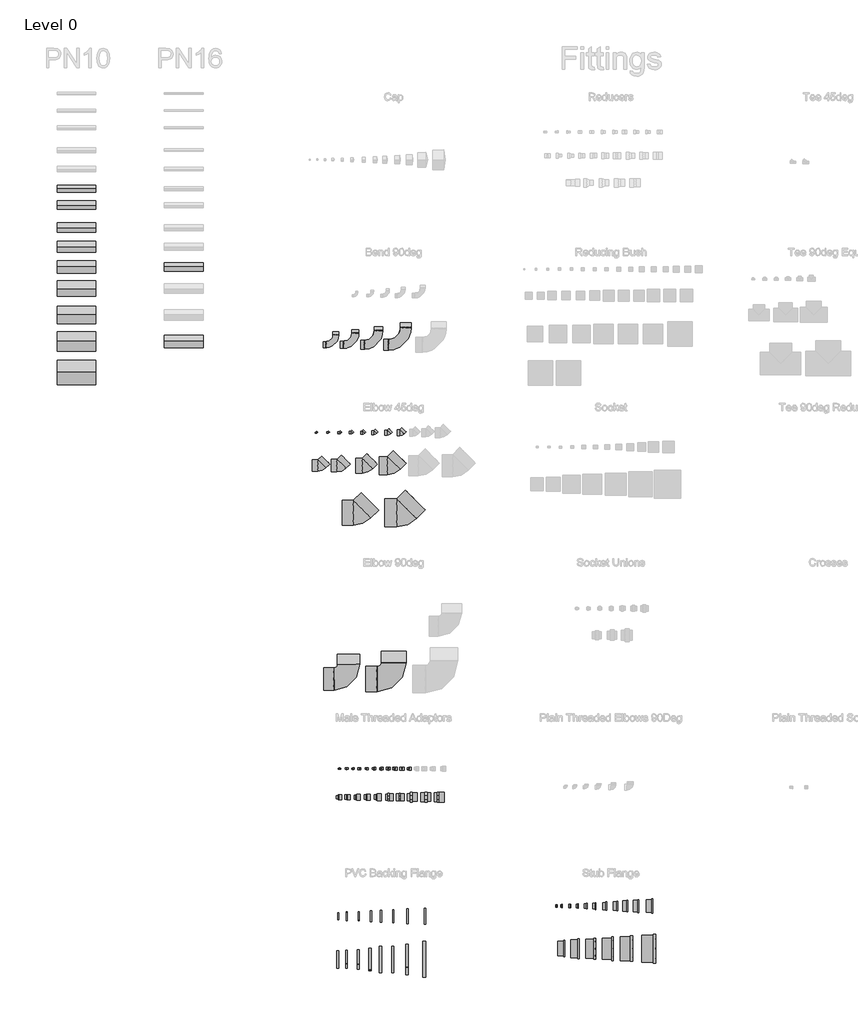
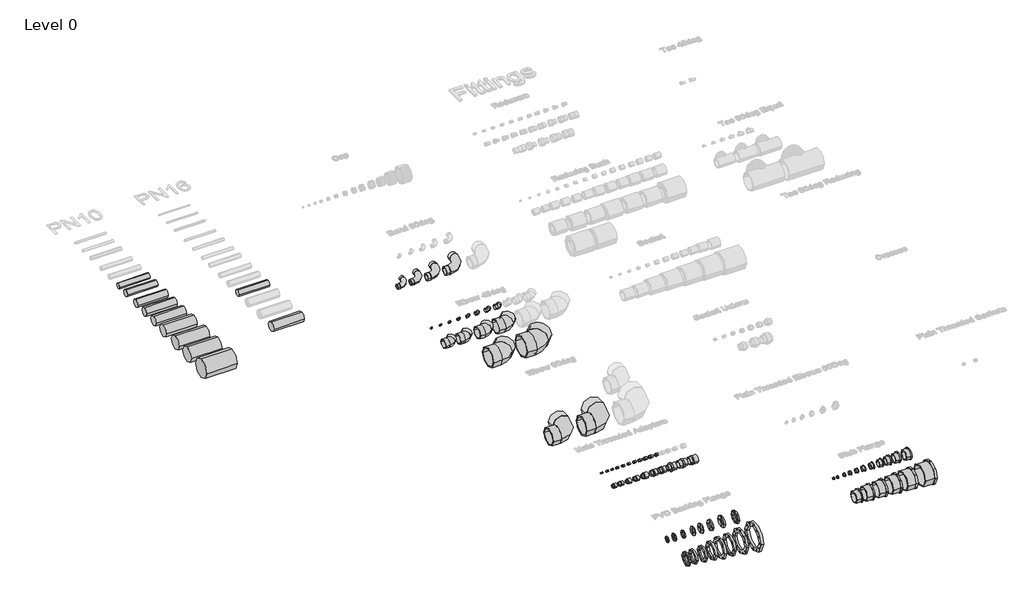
# One storey, part 1 of 12: 86 pipe fittings.
"""IFC4 building model written with IfcOpenShell, lengths in millimetres."""

from ifc_helpers import new_model, si_unit, point, frame, frame_2d, origin, place, context, project, spatial, circle_curve, trimmed, segment, composite_curve, outline, extrude, transform, mapped, element, save
from components import pipe_fitting_f9a5b86b, pipe_fitting_59a394b3, pipe_fitting_66b5aaa3, pipe_fitting_63f056da, pipe_fitting_60de37bf, pipe_fitting_c904c121, pipe_fitting_867ca9e1, pipe_fitting_e3af6aa8, pipe_fitting_306f539a, pipe_fitting_6127370f, pipe_fitting_e8316734, pipe_fitting_deb0e6cc, pipe_fitting_0a72955d, pipe_fitting_9d1be2bb, pipe_fitting_c08f262e, pipe_fitting_9718ebb0, pipe_fitting_60481200, pipe_fitting_eaadc510, pipe_fitting_d07ed563, pipe_fitting_6e557de6, pipe_fitting_5c9d9577, pipe_fitting_110mm_35456027, pipe_fitting_110mm_e28571aa, pipe_fitting_125mm_e40749f2, pipe_fitting_125mm_99c0a4ed, pipe_fitting_140mm_c804a835, pipe_fitting_140mm_497a3cd5, pipe_fitting_160mm_4be33bc1, pipe_fitting_160mm_4a2299de, pipe_fitting_200mm_c7647781, pipe_fitting_200mm_46101ffc, pipe_fitting_20mm_3369a606, pipe_fitting_225mm_686b6c55, pipe_fitting_225mm_01b42598, pipe_fitting_250mm_ace15a35, pipe_fitting_250mm_2ba4ded5, pipe_fitting_25mm_d84730b9, pipe_fitting_25mm_a70d380e, pipe_fitting_280mm_290d82b5, pipe_fitting_290mm_5db712d4, pipe_fitting_315mm_d6d34c67, pipe_fitting_315mm_f2f851d3, pipe_fitting_32mm_25229a6d, pipe_fitting_32mm_910a39b7, pipe_fitting_40mm_260ce3ac, pipe_fitting_40mm_33106ba2, pipe_fitting_50mm_88c0afe9, pipe_fitting_50mm_277fe24f, pipe_fitting_63mm_dcb5f1be, pipe_fitting_63mm_d86aa782, pipe_fitting_75mm_7d04418f, pipe_fitting_75mm_f55d075b, pipe_fitting_90mm_0bc7f5ea, pipe_fitting_90mm_9a9f9040, standard_a8a5e359, standard_6b6b4002, standard_bcc041ec, standard_313282be, standard_bbab947c, standard_3af9f29b, standard_f4dc8211, standard_2860c506, standard_eebcdaaf, standard_ba260039, standard_29ab3000, standard_3abe5477, standard_8de06d08, standard_411a4655, standard_528f4212, standard_2a486069, standard_0e005561, standard_c7f499f5, standard_87301c97, standard_bef04e3c

model = new_model("IFC4")

# Units and contexts
model_context = context("Model", 3, world=origin())
ifc_project = project(units=[si_unit("LENGTHUNIT", "METRE", prefix="MILLI")], contexts=[model_context])

# Site, building, storey
site = spatial("IfcSite", under=ifc_project)
building = spatial("IfcBuilding", under=site)
storey = spatial("IfcBuildingStorey", under=building, Name="Level 0", Elevation=0.0)

# Pipe fittings
placement = place(None, origin())
pipe_fitting_shape = pipe_fitting_f9a5b86b(model_context)
element("IfcPipeFitting", 1, ObjectType="Durapipe_PipeFitting_PVC_MaleThreadedAdaptors : 16 x 12 x G3⁄8", at=placement, inside=storey, context=model_context, shape_type="MappedRepresentation", body=[
    mapped(pipe_fitting_shape, transform((-16929.3391871, 336.5620017, 0.0), x_axis=(1.0, 0.0, 0.0), y_axis=(0.0, 1.0, 0.0), z_axis=(0.0, 0.0, 1.0))),
])
pipe_fitting_2_shape = pipe_fitting_59a394b3(model_context)
element("IfcPipeFitting", 2, ObjectType="Durapipe_PipeFitting_PVC_MaleThreadedAdaptors : 20 x 16 x G3⁄8", at=placement, inside=storey, context=model_context, shape_type="MappedRepresentation", body=[
    mapped(pipe_fitting_2_shape, transform((-16759.3951337, 336.5620017, 0.0), x_axis=(1.0, 0.0, 0.0), y_axis=(0.0, 1.0, 0.0), z_axis=(0.0, 0.0, 1.0))),
])
pipe_fitting_3_shape = pipe_fitting_66b5aaa3(model_context)
element("IfcPipeFitting", 3, ObjectType="Durapipe_PipeFitting_PVC_MaleThreadedAdaptors : 20 x 16 x 1⁄2", at=placement, inside=storey, context=model_context, shape_type="MappedRepresentation", body=[
    mapped(pipe_fitting_3_shape, transform((-16840.281416, 336.5620017, 0.0), x_axis=(1.0, 0.0, 0.0), y_axis=(0.0, 1.0, 0.0), z_axis=(0.0, 0.0, 1.0))),
])
pipe_fitting_4_shape = pipe_fitting_63f056da(model_context)
element("IfcPipeFitting", 4, ObjectType="Durapipe_PipeFitting_PVC_MaleThreadedAdaptors : 25 x 20 x G1⁄2", at=placement, inside=storey, context=model_context, shape_type="MappedRepresentation", body=[
    mapped(pipe_fitting_4_shape, transform((-16581.2968977, 336.5620017, 0.0), x_axis=(1.0, 0.0, 0.0), y_axis=(0.0, 1.0, 0.0), z_axis=(0.0, 0.0, 1.0))),
])
pipe_fitting_5_shape = pipe_fitting_60de37bf(model_context)
element("IfcPipeFitting", 5, ObjectType="Durapipe_PipeFitting_PVC_MaleThreadedAdaptors : 25 x 20 x 3⁄4", at=placement, inside=storey, context=model_context, shape_type="MappedRepresentation", body=[
    mapped(pipe_fitting_5_shape, transform((-16676.2826236, 336.5620017, 0.0), x_axis=(1.0, 0.0, 0.0), y_axis=(0.0, 1.0, 0.0), z_axis=(0.0, 0.0, 1.0))),
])
pipe_fitting_6_shape = pipe_fitting_c904c121(model_context)
element("IfcPipeFitting", 6, ObjectType="Durapipe_PipeFitting_PVC_MaleThreadedAdaptors : 32 x 25 x 1⁄2", at=placement, inside=storey, context=model_context, shape_type="MappedRepresentation", body=[
    mapped(pipe_fitting_6_shape, transform((-16487.7953237, 336.5620017, 0.0), x_axis=(1.0, 0.0, 0.0), y_axis=(0.0, 1.0, 0.0), z_axis=(0.0, 0.0, 1.0))),
])
pipe_fitting_7_shape = pipe_fitting_867ca9e1(model_context)
element("IfcPipeFitting", 7, ObjectType="Durapipe_PipeFitting_PVC_MaleThreadedAdaptors : 32 x 25 x 3⁄4", at=placement, inside=storey, context=model_context, shape_type="MappedRepresentation", body=[
    mapped(pipe_fitting_7_shape, transform((-16392.0675218, 336.5620017, 0.0), x_axis=(1.0, 0.0, 0.0), y_axis=(0.0, 1.0, 0.0), z_axis=(0.0, 0.0, 1.0))),
])
pipe_fitting_8_shape = pipe_fitting_e3af6aa8(model_context)
element("IfcPipeFitting", 8, ObjectType="Durapipe_PipeFitting_PVC_MaleThreadedAdaptors : 32 x 25 x G1", at=placement, inside=storey, context=model_context, shape_type="MappedRepresentation", body=[
    mapped(pipe_fitting_8_shape, transform((-16302.0335623, 336.5620017, 0.0), x_axis=(1.0, 0.0, 0.0), y_axis=(0.0, 1.0, 0.0), z_axis=(0.0, 0.0, 1.0))),
])
pipe_fitting_9_shape = pipe_fitting_306f539a(model_context)
element("IfcPipeFitting", 9, ObjectType="Durapipe_PipeFitting_PVC_MaleThreadedAdaptors : 40 x 32 x G3⁄4", at=placement, inside=storey, context=model_context, shape_type="MappedRepresentation", body=[
    mapped(pipe_fitting_9_shape, transform((-16036.0400377, 336.5620017, 0.0), x_axis=(1.0, 0.0, 0.0), y_axis=(0.0, 1.0, 0.0), z_axis=(0.0, 0.0, 1.0))),
])
pipe_fitting_10_shape = pipe_fitting_6127370f(model_context)
element("IfcPipeFitting", 10, ObjectType="Durapipe_PipeFitting_PVC_MaleThreadedAdaptors : 40 x 32 x G1", at=placement, inside=storey, context=model_context, shape_type="MappedRepresentation", body=[
    mapped(pipe_fitting_10_shape, transform((-16218.6649373, 336.5620017, 0.0), x_axis=(1.0, 0.0, 0.0), y_axis=(0.0, 1.0, 0.0), z_axis=(0.0, 0.0, 1.0))),
])
pipe_fitting_11_shape = pipe_fitting_e8316734(model_context)
element("IfcPipeFitting", 11, ObjectType="Durapipe_PipeFitting_PVC_MaleThreadedAdaptors : 40 x 32 x G1-1⁄4", at=placement, inside=storey, context=model_context, shape_type="MappedRepresentation", body=[
    mapped(pipe_fitting_11_shape, transform((-16123.0855506, 336.5620017, 0.0), x_axis=(1.0, 0.0, 0.0), y_axis=(0.0, 1.0, 0.0), z_axis=(0.0, 0.0, 1.0))),
])
pipe_fitting_12_shape = pipe_fitting_deb0e6cc(model_context)
element("IfcPipeFitting", 12, ObjectType="Durapipe_PipeFitting_PVC_MaleThreadedAdaptors : 63 x 50 x G1-1⁄4", at=placement, inside=storey, context=model_context, shape_type="MappedRepresentation", body=[
    mapped(pipe_fitting_12_shape, transform((-16944.3391871, -30.5816939, 0.0), x_axis=(1.0, 0.0, 0.0), y_axis=(0.0, 1.0, 0.0), z_axis=(0.0, 0.0, 1.0))),
])
pipe_fitting_13_shape = pipe_fitting_0a72955d(model_context)
element("IfcPipeFitting", 13, ObjectType="Durapipe_PipeFitting_PVC_MaleThreadedAdaptors : 63 x 50 x G2", at=placement, inside=storey, context=model_context, shape_type="MappedRepresentation", body=[
    mapped(pipe_fitting_13_shape, transform((-16833.3212501, -30.5816939, 0.0), x_axis=(1.0, 0.0, 0.0), y_axis=(0.0, 1.0, 0.0), z_axis=(0.0, 0.0, 1.0))),
])
pipe_fitting_14_shape = pipe_fitting_9d1be2bb(model_context)
element("IfcPipeFitting", 14, ObjectType="Durapipe_PipeFitting_PVC_MaleThreadedAdaptors : 75 x 63 x G1-1⁄2", at=placement, inside=storey, context=model_context, shape_type="MappedRepresentation", body=[
    mapped(pipe_fitting_14_shape, transform((-16713.1685711, -30.5816939, 0.0), x_axis=(1.0, 0.0, 0.0), y_axis=(0.0, 1.0, 0.0), z_axis=(0.0, 0.0, 1.0))),
])
pipe_fitting_15_shape = pipe_fitting_c08f262e(model_context)
element("IfcPipeFitting", 15, ObjectType="Durapipe_PipeFitting_PVC_MaleThreadedAdaptors : 75 x 63 x G2", at=placement, inside=storey, context=model_context, shape_type="MappedRepresentation", body=[
    mapped(pipe_fitting_15_shape, transform((-16582.7170911, -30.5816939, 0.0), x_axis=(1.0, 0.0, 0.0), y_axis=(0.0, 1.0, 0.0), z_axis=(0.0, 0.0, 1.0))),
])
pipe_fitting_16_shape = pipe_fitting_9718ebb0(model_context)
element("IfcPipeFitting", 16, ObjectType="Durapipe_PipeFitting_PVC_MaleThreadedAdaptors : 90 x 75 x G2", at=placement, inside=storey, context=model_context, shape_type="MappedRepresentation", body=[
    mapped(pipe_fitting_16_shape, transform((-16445.3997436, -30.5816939, 0.0), x_axis=(1.0, 0.0, 0.0), y_axis=(0.0, 1.0, 0.0), z_axis=(0.0, 0.0, 1.0))),
])
pipe_fitting_17_shape = pipe_fitting_60481200(model_context)
element("IfcPipeFitting", 17, ObjectType="Durapipe_PipeFitting_PVC_MaleThreadedAdaptors : 90 x 75 x G2-1⁄2", at=placement, inside=storey, context=model_context, shape_type="MappedRepresentation", body=[
    mapped(pipe_fitting_17_shape, transform((-16293.7530594, -30.5816939, 0.0), x_axis=(1.0, 0.0, 0.0), y_axis=(0.0, 1.0, 0.0), z_axis=(0.0, 0.0, 1.0))),
])
pipe_fitting_18_shape = pipe_fitting_eaadc510(model_context)
element("IfcPipeFitting", 18, ObjectType="Durapipe_PipeFitting_PVC_MaleThreadedAdaptors : 90 x 75 x G3", at=placement, inside=storey, context=model_context, shape_type="MappedRepresentation", body=[
    mapped(pipe_fitting_18_shape, transform((-16151.1649373, -30.5816939, 0.0), x_axis=(1.0, 0.0, 0.0), y_axis=(0.0, 1.0, 0.0), z_axis=(0.0, 0.0, 1.0))),
])
pipe_fitting_19_shape = pipe_fitting_d07ed563(model_context)
element("IfcPipeFitting", 19, ObjectType="Durapipe_PipeFitting_PVC_MaleThreadedAdaptors : 110 x 90 x G3", at=placement, inside=storey, context=model_context, shape_type="MappedRepresentation", body=[
    mapped(pipe_fitting_19_shape, transform((-15994.6396271, -30.5816939, 0.0), x_axis=(1.0, 0.0, 0.0), y_axis=(0.0, 1.0, 0.0), z_axis=(0.0, 0.0, 1.0))),
])
pipe_fitting_20_shape = pipe_fitting_6e557de6(model_context)
element("IfcPipeFitting", 20, ObjectType="Durapipe_PipeFitting_PVC_MaleThreadedAdaptors : 110 x 90 x G4", at=placement, inside=storey, context=model_context, shape_type="MappedRepresentation", body=[
    mapped(pipe_fitting_20_shape, transform((-15806.5278769, -30.5816939, 0.0), x_axis=(1.0, 0.0, 0.0), y_axis=(0.0, 1.0, 0.0), z_axis=(0.0, 0.0, 1.0))),
])
pipe_fitting_21_shape = pipe_fitting_5c9d9577(model_context)
element("IfcPipeFitting", 21, ObjectType="Durapipe_PipeFitting_PVC_MaleThreadedAdaptors : 125 x 110 x G4", at=placement, inside=storey, context=model_context, shape_type="MappedRepresentation", body=[
    mapped(pipe_fitting_21_shape, transform((-15655.0016538, -30.5816939, 0.0), x_axis=(1.0, 0.0, 0.0), y_axis=(0.0, 1.0, 0.0), z_axis=(0.0, 0.0, 1.0))),
])
pipe_fitting_110mm_shape = pipe_fitting_110mm_35456027(model_context)
element("IfcPipeFitting", 22, ObjectType="Durapipe_PipeFitting_PVC_BackingFlange : 110mm", at=placement, inside=storey, context=model_context, shape_type="MappedRepresentation", body=[
    mapped(pipe_fitting_110mm_shape, transform((-15830.1653961, -1564.7548716, 0.0), x_axis=(1.0, 0.0, 0.0), y_axis=(0.0, 1.0, 0.0), z_axis=(0.0, 0.0, 1.0))),
])
pipe_fitting_110mm_2_shape = pipe_fitting_110mm_e28571aa(model_context)
element("IfcPipeFitting", 23, ObjectType="Durapipe_PipeFitting_PVC_StubFlange : 110mm", at=placement, inside=storey, context=model_context, shape_type="MappedRepresentation", body=[
    mapped(pipe_fitting_110mm_2_shape, transform((-13254.3344401, -1433.1373987, 0.0), x_axis=(1.0, 0.0, 0.0), y_axis=(0.0, 1.0, 0.0), z_axis=(0.0, 0.0, 1.0))),
])
pipe_fitting_125mm_shape = pipe_fitting_125mm_e40749f2(model_context)
element("IfcPipeFitting", 24, ObjectType="Durapipe_PipeFitting_PVC_BackingFlange : 125mm", at=placement, inside=storey, context=model_context, shape_type="MappedRepresentation", body=[
    mapped(pipe_fitting_125mm_shape, transform((-16957.197715, -2120.8870265, 0.0), x_axis=(1.0, 0.0, 0.0), y_axis=(0.0, 1.0, 0.0), z_axis=(0.0, 0.0, 1.0))),
])
pipe_fitting_125mm_2_shape = pipe_fitting_125mm_99c0a4ed(model_context)
element("IfcPipeFitting", 25, ObjectType="Durapipe_PipeFitting_PVC_StubFlange : 125mm", at=placement, inside=storey, context=model_context, shape_type="MappedRepresentation", body=[
    mapped(pipe_fitting_125mm_2_shape, transform((-13113.5137483, -1433.1373987, 0.0), x_axis=(1.0, 0.0, 0.0), y_axis=(0.0, 1.0, 0.0), z_axis=(0.0, 0.0, 1.0))),
])
pipe_fitting_140mm_shape = pipe_fitting_140mm_c804a835(model_context)
element("IfcPipeFitting", 26, ObjectType="Durapipe_PipeFitting_PVC_BackingFlange : 140mm", at=placement, inside=storey, context=model_context, shape_type="MappedRepresentation", body=[
    mapped(pipe_fitting_140mm_shape, transform((-16843.2245144, -2120.8870265, 0.0), x_axis=(1.0, 0.0, 0.0), y_axis=(0.0, 1.0, 0.0), z_axis=(0.0, 0.0, 1.0))),
])
pipe_fitting_140mm_2_shape = pipe_fitting_140mm_497a3cd5(model_context)
element("IfcPipeFitting", 27, ObjectType="Durapipe_PipeFitting_PVC_StubFlange : 140mm", at=placement, inside=storey, context=model_context, shape_type="MappedRepresentation", body=[
    mapped(pipe_fitting_140mm_2_shape, transform((-12939.87417, -1433.1373987, 0.0), x_axis=(1.0, 0.0, 0.0), y_axis=(0.0, 1.0, 0.0), z_axis=(0.0, 0.0, 1.0))),
])
pipe_fitting_160mm_shape = pipe_fitting_160mm_4be33bc1(model_context)
element("IfcPipeFitting", 28, ObjectType="Durapipe_PipeFitting_PVC_BackingFlange : 160mm", at=placement, inside=storey, context=model_context, shape_type="MappedRepresentation", body=[
    mapped(pipe_fitting_160mm_shape, transform((-16693.3972649, -2120.8870265, 0.0), x_axis=(1.0, 0.0, 0.0), y_axis=(0.0, 1.0, 0.0), z_axis=(0.0, 0.0, 1.0))),
])
pipe_fitting_160mm_2_shape = pipe_fitting_160mm_4a2299de(model_context)
element("IfcPipeFitting", 29, ObjectType="Durapipe_PipeFitting_PVC_StubFlange : 160mm", at=placement, inside=storey, context=model_context, shape_type="MappedRepresentation", body=[
    mapped(pipe_fitting_160mm_2_shape, transform((-14075.3237368, -1982.3720137, 0.0), x_axis=(1.0, 0.0, 0.0), y_axis=(0.0, 1.0, 0.0), z_axis=(0.0, 0.0, 1.0))),
])
pipe_fitting_200mm_shape = pipe_fitting_200mm_c7647781(model_context)
element("IfcPipeFitting", 30, ObjectType="Durapipe_PipeFitting_PVC_BackingFlange : 200mm", at=placement, inside=storey, context=model_context, shape_type="MappedRepresentation", body=[
    mapped(pipe_fitting_200mm_shape, transform((-16542.5858814, -2120.8870265, 0.0), x_axis=(1.0, 0.0, 0.0), y_axis=(0.0, 1.0, 0.0), z_axis=(0.0, 0.0, 1.0))),
])
pipe_fitting_200mm_2_shape = pipe_fitting_200mm_46101ffc(model_context)
element("IfcPipeFitting", 31, ObjectType="Durapipe_PipeFitting_PVC_StubFlange : 200mm", at=placement, inside=storey, context=model_context, shape_type="MappedRepresentation", body=[
    mapped(pipe_fitting_200mm_2_shape, transform((-13901.0030847, -1982.3720137, 0.0), x_axis=(1.0, 0.0, 0.0), y_axis=(0.0, 1.0, 0.0), z_axis=(0.0, 0.0, 1.0))),
])
pipe_fitting_20mm_shape = pipe_fitting_20mm_3369a606(model_context)
element("IfcPipeFitting", 32, ObjectType="Durapipe_PipeFitting_PVC_StubFlange : 20mm", at=placement, inside=storey, context=model_context, shape_type="MappedRepresentation", body=[
    mapped(pipe_fitting_20mm_shape, transform((-14140.3237368, -1433.1373987, 0.0), x_axis=(1.0, 0.0, 0.0), y_axis=(0.0, 1.0, 0.0), z_axis=(0.0, 0.0, 1.0))),
])
pipe_fitting_225mm_shape = pipe_fitting_225mm_686b6c55(model_context)
element("IfcPipeFitting", 33, ObjectType="Durapipe_PipeFitting_PVC_BackingFlange : 225mm", at=placement, inside=storey, context=model_context, shape_type="MappedRepresentation", body=[
    mapped(pipe_fitting_225mm_shape, transform((-16406.2307601, -2120.8870265, 0.0), x_axis=(1.0, 0.0, 0.0), y_axis=(0.0, 1.0, 0.0), z_axis=(0.0, 0.0, 1.0))),
])
pipe_fitting_225mm_2_shape = pipe_fitting_225mm_01b42598(model_context)
element("IfcPipeFitting", 34, ObjectType="Durapipe_PipeFitting_PVC_StubFlange : 225mm", at=placement, inside=storey, context=model_context, shape_type="MappedRepresentation", body=[
    mapped(pipe_fitting_225mm_2_shape, transform((-13697.2091511, -1982.3720137, 0.0), x_axis=(1.0, 0.0, 0.0), y_axis=(0.0, 1.0, 0.0), z_axis=(0.0, 0.0, 1.0))),
])
pipe_fitting_250mm_shape = pipe_fitting_250mm_ace15a35(model_context)
element("IfcPipeFitting", 35, ObjectType="Durapipe_PipeFitting_PVC_BackingFlange : 250mm", at=placement, inside=storey, context=model_context, shape_type="MappedRepresentation", body=[
    mapped(pipe_fitting_250mm_shape, transform((-16247.8756388, -2120.8870265, 0.0), x_axis=(1.0, 0.0, 0.0), y_axis=(0.0, 1.0, 0.0), z_axis=(0.0, 0.0, 1.0))),
])
pipe_fitting_250mm_2_shape = pipe_fitting_250mm_2ba4ded5(model_context)
element("IfcPipeFitting", 36, ObjectType="Durapipe_PipeFitting_PVC_StubFlange : 250mm", at=placement, inside=storey, context=model_context, shape_type="MappedRepresentation", body=[
    mapped(pipe_fitting_250mm_2_shape, transform((-13477.7462468, -1982.3720137, 0.0), x_axis=(1.0, 0.0, 0.0), y_axis=(0.0, 1.0, 0.0), z_axis=(0.0, 0.0, 1.0))),
])
pipe_fitting_25mm_shape = pipe_fitting_25mm_d84730b9(model_context)
element("IfcPipeFitting", 37, ObjectType="Durapipe_PipeFitting_PVC_BackingFlange : 25mm", at=placement, inside=storey, context=model_context, shape_type="MappedRepresentation", body=[
    mapped(pipe_fitting_25mm_shape, transform((-16951.697715, -1564.7548716, 0.0), x_axis=(1.0, 0.0, 0.0), y_axis=(0.0, 1.0, 0.0), z_axis=(0.0, 0.0, 1.0))),
])
pipe_fitting_25mm_2_shape = pipe_fitting_25mm_a70d380e(model_context)
element("IfcPipeFitting", 38, ObjectType="Durapipe_PipeFitting_PVC_StubFlange : 25mm", at=placement, inside=storey, context=model_context, shape_type="MappedRepresentation", body=[
    mapped(pipe_fitting_25mm_2_shape, transform((-14075.3237368, -1433.1373987, 0.0), x_axis=(1.0, 0.0, 0.0), y_axis=(0.0, 1.0, 0.0), z_axis=(0.0, 0.0, 1.0))),
])
pipe_fitting_280mm_shape = pipe_fitting_280mm_290d82b5(model_context)
element("IfcPipeFitting", 39, ObjectType="Durapipe_PipeFitting_PVC_StubFlange : 280mm", at=placement, inside=storey, context=model_context, shape_type="MappedRepresentation", body=[
    mapped(pipe_fitting_280mm_shape, transform((-13237.7462468, -1982.3720137, 0.0), x_axis=(1.0, 0.0, 0.0), y_axis=(0.0, 1.0, 0.0), z_axis=(0.0, 0.0, 1.0))),
])
pipe_fitting_290mm_shape = pipe_fitting_290mm_5db712d4(model_context)
element("IfcPipeFitting", 40, ObjectType="Durapipe_PipeFitting_PVC_BackingFlange : 290mm", at=placement, inside=storey, context=model_context, shape_type="MappedRepresentation", body=[
    mapped(pipe_fitting_290mm_shape, transform((-16062.906615, -2120.8870265, 0.0), x_axis=(1.0, 0.0, 0.0), y_axis=(0.0, 1.0, 0.0), z_axis=(0.0, 0.0, 1.0))),
])
pipe_fitting_315mm_shape = pipe_fitting_315mm_d6d34c67(model_context)
element("IfcPipeFitting", 41, ObjectType="Durapipe_PipeFitting_PVC_BackingFlange : 315mm", at=placement, inside=storey, context=model_context, shape_type="MappedRepresentation", body=[
    mapped(pipe_fitting_315mm_shape, transform((-15840.1653961, -2120.8870265, 0.0), x_axis=(1.0, 0.0, 0.0), y_axis=(0.0, 1.0, 0.0), z_axis=(0.0, 0.0, 1.0))),
])
pipe_fitting_315mm_2_shape = pipe_fitting_315mm_f2f851d3(model_context)
element("IfcPipeFitting", 42, ObjectType="Durapipe_PipeFitting_PVC_StubFlange : 315mm", at=placement, inside=storey, context=model_context, shape_type="MappedRepresentation", body=[
    mapped(pipe_fitting_315mm_2_shape, transform((-12947.5933768, -1982.3720137, 0.0), x_axis=(1.0, 0.0, 0.0), y_axis=(0.0, 1.0, 0.0), z_axis=(0.0, 0.0, 1.0))),
])
pipe_fitting_32mm_shape = pipe_fitting_32mm_25229a6d(model_context)
element("IfcPipeFitting", 43, ObjectType="Durapipe_PipeFitting_PVC_BackingFlange : 32mm", at=placement, inside=storey, context=model_context, shape_type="MappedRepresentation", body=[
    mapped(pipe_fitting_32mm_shape, transform((-16838.2245144, -1564.7548716, 0.0), x_axis=(1.0, 0.0, 0.0), y_axis=(0.0, 1.0, 0.0), z_axis=(0.0, 0.0, 1.0))),
])
pipe_fitting_32mm_2_shape = pipe_fitting_32mm_910a39b7(model_context)
element("IfcPipeFitting", 44, ObjectType="Durapipe_PipeFitting_PVC_StubFlange : 32mm", at=placement, inside=storey, context=model_context, shape_type="MappedRepresentation", body=[
    mapped(pipe_fitting_32mm_2_shape, transform((-13964.9186997, -1433.1373987, 0.0), x_axis=(1.0, 0.0, 0.0), y_axis=(0.0, 1.0, 0.0), z_axis=(0.0, 0.0, 1.0))),
])
pipe_fitting_40mm_shape = pipe_fitting_40mm_260ce3ac(model_context)
element("IfcPipeFitting", 45, ObjectType="Durapipe_PipeFitting_PVC_BackingFlange : 40mm", at=placement, inside=storey, context=model_context, shape_type="MappedRepresentation", body=[
    mapped(pipe_fitting_40mm_shape, transform((-16838.2245144, -1564.7548716, 0.0), x_axis=(-1.0, 0.0, 0.0), y_axis=(0.0, -1.0, 0.0), z_axis=(0.0, 0.0, 1.0))),
])
element("IfcPipeFitting", 46, ObjectType="Durapipe_PipeFitting_PVC_BackingFlange : 40mm", at=placement, inside=storey, context=model_context, shape_type="MappedRepresentation", body=[
    mapped(pipe_fitting_40mm_shape, transform((-16687.3972649, -1564.7548716, 0.0), x_axis=(1.0, 0.0, 0.0), y_axis=(0.0, 1.0, 0.0), z_axis=(0.0, 0.0, 1.0))),
])
pipe_fitting_40mm_2_shape = pipe_fitting_40mm_33106ba2(model_context)
element("IfcPipeFitting", 47, ObjectType="Durapipe_PipeFitting_PVC_StubFlange : 40mm", at=placement, inside=storey, context=model_context, shape_type="MappedRepresentation", body=[
    mapped(pipe_fitting_40mm_2_shape, transform((-13871.0221051, -1433.1373987, 0.0), x_axis=(1.0, 0.0, 0.0), y_axis=(0.0, 1.0, 0.0), z_axis=(0.0, 0.0, 1.0))),
])
pipe_fitting_50mm_shape = pipe_fitting_50mm_88c0afe9(model_context)
element("IfcPipeFitting", 48, ObjectType="Durapipe_PipeFitting_PVC_BackingFlange : 50mm", at=placement, inside=storey, context=model_context, shape_type="MappedRepresentation", body=[
    mapped(pipe_fitting_50mm_shape, transform((-16528.0858814, -1564.7548716, 0.0), x_axis=(1.0, 0.0, 0.0), y_axis=(0.0, 1.0, 0.0), z_axis=(0.0, 0.0, 1.0))),
])
pipe_fitting_50mm_2_shape = pipe_fitting_50mm_277fe24f(model_context)
element("IfcPipeFitting", 49, ObjectType="Durapipe_PipeFitting_PVC_StubFlange : 50mm", at=placement, inside=storey, context=model_context, shape_type="MappedRepresentation", body=[
    mapped(pipe_fitting_50mm_2_shape, transform((-13761.6374124, -1433.1373987, 0.0), x_axis=(1.0, 0.0, 0.0), y_axis=(0.0, 1.0, 0.0), z_axis=(0.0, 0.0, 1.0))),
])
pipe_fitting_63mm_shape = pipe_fitting_63mm_dcb5f1be(model_context)
element("IfcPipeFitting", 50, ObjectType="Durapipe_PipeFitting_PVC_BackingFlange : 63mm", at=placement, inside=storey, context=model_context, shape_type="MappedRepresentation", body=[
    mapped(pipe_fitting_63mm_shape, transform((-16399.2307601, -1564.7548716, 0.0), x_axis=(1.0, 0.0, 0.0), y_axis=(0.0, 1.0, 0.0), z_axis=(0.0, 0.0, 1.0))),
])
pipe_fitting_63mm_2_shape = pipe_fitting_63mm_d86aa782(model_context)
element("IfcPipeFitting", 51, ObjectType="Durapipe_PipeFitting_PVC_StubFlange : 63mm", at=placement, inside=storey, context=model_context, shape_type="MappedRepresentation", body=[
    mapped(pipe_fitting_63mm_2_shape, transform((-13651.2847137, -1433.1373987, 0.0), x_axis=(1.0, 0.0, 0.0), y_axis=(0.0, 1.0, 0.0), z_axis=(0.0, 0.0, 1.0))),
])
pipe_fitting_75mm_shape = pipe_fitting_75mm_7d04418f(model_context)
element("IfcPipeFitting", 52, ObjectType="Durapipe_PipeFitting_PVC_BackingFlange : 75mm", at=placement, inside=storey, context=model_context, shape_type="MappedRepresentation", body=[
    mapped(pipe_fitting_75mm_shape, transform((-16241.8756388, -1564.7548716, 0.0), x_axis=(1.0, 0.0, 0.0), y_axis=(0.0, 1.0, 0.0), z_axis=(0.0, 0.0, 1.0))),
])
pipe_fitting_75mm_2_shape = pipe_fitting_75mm_f55d075b(model_context)
element("IfcPipeFitting", 53, ObjectType="Durapipe_PipeFitting_PVC_StubFlange : 75mm", at=placement, inside=storey, context=model_context, shape_type="MappedRepresentation", body=[
    mapped(pipe_fitting_75mm_2_shape, transform((-13516.7318616, -1433.1373987, 0.0), x_axis=(1.0, 0.0, 0.0), y_axis=(0.0, 1.0, 0.0), z_axis=(0.0, 0.0, 1.0))),
])
pipe_fitting_90mm_shape = pipe_fitting_90mm_0bc7f5ea(model_context)
element("IfcPipeFitting", 54, ObjectType="Durapipe_PipeFitting_PVC_BackingFlange : 90mm", at=placement, inside=storey, context=model_context, shape_type="MappedRepresentation", body=[
    mapped(pipe_fitting_90mm_shape, transform((-16055.406615, -1564.7548716, 0.0), x_axis=(1.0, 0.0, 0.0), y_axis=(0.0, 1.0, 0.0), z_axis=(0.0, 0.0, 1.0))),
])
pipe_fitting_90mm_2_shape = pipe_fitting_90mm_9a9f9040(model_context)
element("IfcPipeFitting", 55, ObjectType="Durapipe_PipeFitting_PVC_StubFlange : 90mm", at=placement, inside=storey, context=model_context, shape_type="MappedRepresentation", body=[
    mapped(pipe_fitting_90mm_2_shape, transform((-13378.3069851, -1433.1373987, 0.0), x_axis=(1.0, 0.0, 0.0), y_axis=(0.0, 1.0, 0.0), z_axis=(0.0, 0.0, 1.0))),
])
element("IfcPipeFitting", 56, ObjectType="PN10", at=placement, inside=storey, context=model_context, shape_type="SweptSolid", body=[
    extrude(outline(composite_curve([segment(trimmed(circle_curve(frame_2d((7807.7253457, 0.0)), 45.0), [point((7762.7253457, 0.0))], [point((7807.7253457, 45.0))], False, "CARTESIAN"), True, "CONTINUOUS"), segment(trimmed(circle_curve(frame_2d((7807.7253457, 0.0)), 45.0), [point((7807.7253457, 45.0))], [point((7852.7253457, 0.0))], False, "CARTESIAN"), True, "CONTINUOUS"), segment(trimmed(circle_curve(frame_2d((7807.7253457, 0.0)), 45.0), [point((7852.7253457, 0.0))], [point((7807.7253457, -45.0))], False, "CARTESIAN"), True, "CONTINUOUS"), segment(trimmed(circle_curve(frame_2d((7807.7253457, 0.0)), 45.0), [point((7807.7253457, -45.0))], [point((7762.7253457, 0.0))], False, "CARTESIAN"), True, "CONTINUOUS")], self_intersect=False)), frame((-20572.2564371, 0.0, 0.0), z_axis=(1.0, 0.0, 0.0), x_axis=(0.0, 1.0, 0.0)), (0.0, 0.0, 1.0), 500.0),
])
element("IfcPipeFitting", 57, ObjectType="PN10", at=placement, inside=storey, context=model_context, shape_type="SweptSolid", body=[
    extrude(outline(composite_curve([segment(trimmed(circle_curve(frame_2d((7597.7253457, 0.0)), 55.0), [point((7542.7253457, 0.0))], [point((7597.7253457, 55.0))], False, "CARTESIAN"), True, "CONTINUOUS"), segment(trimmed(circle_curve(frame_2d((7597.7253457, 0.0)), 55.0), [point((7597.7253457, 55.0))], [point((7652.7253457, 0.0))], False, "CARTESIAN"), True, "CONTINUOUS"), segment(trimmed(circle_curve(frame_2d((7597.7253457, 0.0)), 55.0), [point((7652.7253457, 0.0))], [point((7597.7253457, -55.0))], False, "CARTESIAN"), True, "CONTINUOUS"), segment(trimmed(circle_curve(frame_2d((7597.7253457, 0.0)), 55.0), [point((7597.7253457, -55.0))], [point((7542.7253457, 0.0))], False, "CARTESIAN"), True, "CONTINUOUS")], self_intersect=False)), frame((-20572.2564371, 0.0, 0.0), z_axis=(1.0, 0.0, 0.0), x_axis=(0.0, 1.0, 0.0)), (0.0, 0.0, 1.0), 500.0),
])
element("IfcPipeFitting", 58, ObjectType="PN10", at=placement, inside=storey, context=model_context, shape_type="SweptSolid", body=[
    extrude(outline(composite_curve([segment(trimmed(circle_curve(frame_2d((7307.7253457, 0.0)), 62.5), [point((7245.2253457, 0.0))], [point((7307.7253457, 62.5))], False, "CARTESIAN"), True, "CONTINUOUS"), segment(trimmed(circle_curve(frame_2d((7307.7253457, 0.0)), 62.5), [point((7307.7253457, 62.5))], [point((7370.2253457, 0.0))], False, "CARTESIAN"), True, "CONTINUOUS"), segment(trimmed(circle_curve(frame_2d((7307.7253457, 0.0)), 62.5), [point((7370.2253457, 0.0))], [point((7307.7253457, -62.5))], False, "CARTESIAN"), True, "CONTINUOUS"), segment(trimmed(circle_curve(frame_2d((7307.7253457, 0.0)), 62.5), [point((7307.7253457, -62.5))], [point((7245.2253457, 0.0))], False, "CARTESIAN"), True, "CONTINUOUS")], self_intersect=False)), frame((-20572.2564371, 0.0, 0.0), z_axis=(1.0, 0.0, 0.0), x_axis=(0.0, 1.0, 0.0)), (0.0, 0.0, 1.0), 500.0),
])
element("IfcPipeFitting", 59, ObjectType="PN10", at=placement, inside=storey, context=model_context, shape_type="SweptSolid", body=[
    extrude(outline(composite_curve([segment(trimmed(circle_curve(frame_2d((7062.7253457, 0.0)), 70.0), [point((6992.7253457, 0.0))], [point((7062.7253457, 70.0))], False, "CARTESIAN"), True, "CONTINUOUS"), segment(trimmed(circle_curve(frame_2d((7062.7253457, 0.0)), 70.0), [point((7062.7253457, 70.0))], [point((7132.7253457, 0.0))], False, "CARTESIAN"), True, "CONTINUOUS"), segment(trimmed(circle_curve(frame_2d((7062.7253457, 0.0)), 70.0), [point((7132.7253457, 0.0))], [point((7062.7253457, -70.0))], False, "CARTESIAN"), True, "CONTINUOUS"), segment(trimmed(circle_curve(frame_2d((7062.7253457, 0.0)), 70.0), [point((7062.7253457, -70.0))], [point((6992.7253457, 0.0))], False, "CARTESIAN"), True, "CONTINUOUS")], self_intersect=False)), frame((-20572.2564371, 0.0, 0.0), z_axis=(1.0, 0.0, 0.0), x_axis=(0.0, 1.0, 0.0)), (0.0, 0.0, 1.0), 500.0),
])
element("IfcPipeFitting", 60, ObjectType="PN10", at=placement, inside=storey, context=model_context, shape_type="SweptSolid", body=[
    extrude(outline(composite_curve([segment(trimmed(circle_curve(frame_2d((6802.7253457, 0.0)), 80.0), [point((6722.7253457, 0.0))], [point((6802.7253457, 80.0))], False, "CARTESIAN"), True, "CONTINUOUS"), segment(trimmed(circle_curve(frame_2d((6802.7253457, 0.0)), 80.0), [point((6802.7253457, 80.0))], [point((6882.7253457, 0.0))], False, "CARTESIAN"), True, "CONTINUOUS"), segment(trimmed(circle_curve(frame_2d((6802.7253457, 0.0)), 80.0), [point((6882.7253457, 0.0))], [point((6802.7253457, -80.0))], False, "CARTESIAN"), True, "CONTINUOUS"), segment(trimmed(circle_curve(frame_2d((6802.7253457, 0.0)), 80.0), [point((6802.7253457, -80.0))], [point((6722.7253457, 0.0))], False, "CARTESIAN"), True, "CONTINUOUS")], self_intersect=False)), frame((-20572.2564371, 0.0, 0.0), z_axis=(1.0, 0.0, 0.0), x_axis=(0.0, 1.0, 0.0)), (0.0, 0.0, 1.0), 500.0),
])
element("IfcPipeFitting", 61, ObjectType="PN10", at=placement, inside=storey, context=model_context, shape_type="SweptSolid", body=[
    extrude(outline(composite_curve([segment(trimmed(circle_curve(frame_2d((6522.7253457, 0.0)), 100.0), [point((6422.7253457, 0.0))], [point((6522.7253457, 100.0))], False, "CARTESIAN"), True, "CONTINUOUS"), segment(trimmed(circle_curve(frame_2d((6522.7253457, 0.0)), 100.0), [point((6522.7253457, 100.0))], [point((6622.7253457, 0.0))], False, "CARTESIAN"), True, "CONTINUOUS"), segment(trimmed(circle_curve(frame_2d((6522.7253457, 0.0)), 100.0), [point((6622.7253457, 0.0))], [point((6522.7253457, -100.0))], False, "CARTESIAN"), True, "CONTINUOUS"), segment(trimmed(circle_curve(frame_2d((6522.7253457, 0.0)), 100.0), [point((6522.7253457, -100.0))], [point((6422.7253457, 0.0))], False, "CARTESIAN"), True, "CONTINUOUS")], self_intersect=False)), frame((-20572.2564371, 0.0, 0.0), z_axis=(1.0, 0.0, 0.0), x_axis=(0.0, 1.0, 0.0)), (0.0, 0.0, 1.0), 500.0),
])
element("IfcPipeFitting", 62, ObjectType="PN10", at=placement, inside=storey, context=model_context, shape_type="SweptSolid", body=[
    extrude(outline(composite_curve([segment(trimmed(circle_curve(frame_2d((6182.7253457, 0.0)), 112.5), [point((6070.2253457, 0.0))], [point((6182.7253457, 112.5))], False, "CARTESIAN"), True, "CONTINUOUS"), segment(trimmed(circle_curve(frame_2d((6182.7253457, 0.0)), 112.5), [point((6182.7253457, 112.5))], [point((6295.2253457, 0.0))], False, "CARTESIAN"), True, "CONTINUOUS"), segment(trimmed(circle_curve(frame_2d((6182.7253457, 0.0)), 112.5), [point((6295.2253457, 0.0))], [point((6182.7253457, -112.5))], False, "CARTESIAN"), True, "CONTINUOUS"), segment(trimmed(circle_curve(frame_2d((6182.7253457, 0.0)), 112.5), [point((6182.7253457, -112.5))], [point((6070.2253457, 0.0))], False, "CARTESIAN"), True, "CONTINUOUS")], self_intersect=False)), frame((-20572.2564371, 0.0, 0.0), z_axis=(1.0, 0.0, 0.0), x_axis=(0.0, 1.0, 0.0)), (0.0, 0.0, 1.0), 500.0),
])
element("IfcPipeFitting", 63, ObjectType="PN10", at=placement, inside=storey, context=model_context, shape_type="SweptSolid", body=[
    extrude(outline(composite_curve([segment(trimmed(circle_curve(frame_2d((5842.7253457, 0.0)), 125.0), [point((5717.7253457, 0.0))], [point((5842.7253457, 125.0))], False, "CARTESIAN"), True, "CONTINUOUS"), segment(trimmed(circle_curve(frame_2d((5842.7253457, 0.0)), 125.0), [point((5842.7253457, 125.0))], [point((5967.7253457, 0.0))], False, "CARTESIAN"), True, "CONTINUOUS"), segment(trimmed(circle_curve(frame_2d((5842.7253457, 0.0)), 125.0), [point((5967.7253457, 0.0))], [point((5842.7253457, -125.0))], False, "CARTESIAN"), True, "CONTINUOUS"), segment(trimmed(circle_curve(frame_2d((5842.7253457, 0.0)), 125.0), [point((5842.7253457, -125.0))], [point((5717.7253457, 0.0))], False, "CARTESIAN"), True, "CONTINUOUS")], self_intersect=False)), frame((-20572.2564371, 0.0, 0.0), z_axis=(1.0, 0.0, 0.0), x_axis=(0.0, 1.0, 0.0)), (0.0, 0.0, 1.0), 500.0),
])
element("IfcPipeFitting", 64, ObjectType="PN10", at=placement, inside=storey, context=model_context, shape_type="SweptSolid", body=[
    extrude(outline(composite_curve([segment(trimmed(circle_curve(frame_2d((5442.7253457, 0.0)), 157.5), [point((5285.2253457, 0.0))], [point((5442.7253457, 157.5))], False, "CARTESIAN"), True, "CONTINUOUS"), segment(trimmed(circle_curve(frame_2d((5442.7253457, 0.0)), 157.5), [point((5442.7253457, 157.5))], [point((5600.2253457, 0.0))], False, "CARTESIAN"), True, "CONTINUOUS"), segment(trimmed(circle_curve(frame_2d((5442.7253457, 0.0)), 157.5), [point((5600.2253457, 0.0))], [point((5442.7253457, -157.5))], False, "CARTESIAN"), True, "CONTINUOUS"), segment(trimmed(circle_curve(frame_2d((5442.7253457, 0.0)), 157.5), [point((5442.7253457, -157.5))], [point((5285.2253457, 0.0))], False, "CARTESIAN"), True, "CONTINUOUS")], self_intersect=False)), frame((-20572.2564371, 0.0, 0.0), z_axis=(1.0, 0.0, 0.0), x_axis=(0.0, 1.0, 0.0)), (0.0, 0.0, 1.0), 500.0),
])
element("IfcPipeFitting", 65, ObjectType="PN16", at=placement, inside=storey, context=model_context, shape_type="SweptSolid", body=[
    extrude(outline(composite_curve([segment(trimmed(circle_curve(frame_2d((6802.7253457, 0.0)), 55.0), [point((6747.7253457, 0.0))], [point((6802.7253457, 55.0))], False, "CARTESIAN"), True, "CONTINUOUS"), segment(trimmed(circle_curve(frame_2d((6802.7253457, 0.0)), 55.0), [point((6802.7253457, 55.0))], [point((6857.7253457, 0.0))], False, "CARTESIAN"), True, "CONTINUOUS"), segment(trimmed(circle_curve(frame_2d((6802.7253457, 0.0)), 55.0), [point((6857.7253457, 0.0))], [point((6802.7253457, -55.0))], False, "CARTESIAN"), True, "CONTINUOUS"), segment(trimmed(circle_curve(frame_2d((6802.7253457, 0.0)), 55.0), [point((6802.7253457, -55.0))], [point((6747.7253457, 0.0))], False, "CARTESIAN"), True, "CONTINUOUS")], self_intersect=False)), frame((-19191.3558768, 0.0, 0.0), z_axis=(1.0, 0.0, 0.0), x_axis=(0.0, 1.0, 0.0)), (0.0, 0.0, 1.0), 500.0),
])
element("IfcPipeFitting", 66, ObjectType="PN16", at=placement, inside=storey, context=model_context, shape_type="SweptSolid", body=[
    extrude(outline(composite_curve([segment(trimmed(circle_curve(frame_2d((5842.7253457, 0.0)), 80.0), [point((5762.7253457, 0.0))], [point((5842.7253457, 80.0))], False, "CARTESIAN"), True, "CONTINUOUS"), segment(trimmed(circle_curve(frame_2d((5842.7253457, 0.0)), 80.0), [point((5842.7253457, 80.0))], [point((5922.7253457, 0.0))], False, "CARTESIAN"), True, "CONTINUOUS"), segment(trimmed(circle_curve(frame_2d((5842.7253457, 0.0)), 80.0), [point((5922.7253457, 0.0))], [point((5842.7253457, -80.0))], False, "CARTESIAN"), True, "CONTINUOUS"), segment(trimmed(circle_curve(frame_2d((5842.7253457, 0.0)), 80.0), [point((5842.7253457, -80.0))], [point((5762.7253457, 0.0))], False, "CARTESIAN"), True, "CONTINUOUS")], self_intersect=False)), frame((-19191.3558768, 0.0, 0.0), z_axis=(1.0, 0.0, 0.0), x_axis=(0.0, 1.0, 0.0)), (0.0, 0.0, 1.0), 500.0),
])
standard_shape = standard_a8a5e359(model_context)
element("IfcPipeFitting", 67, ObjectType="Durapipe_PipeFitting_PVC_SR_Bend90deg : Standard", at=placement, inside=storey, context=model_context, shape_type="MappedRepresentation", body=[
    mapped(standard_shape, transform((-16980.7375025, 5798.9864215, 0.0), x_axis=(1.0, 0.0, 0.0), y_axis=(0.0, 1.0, 0.0), z_axis=(0.0, 0.0, 1.0))),
])
standard_2_shape = standard_6b6b4002(model_context)
element("IfcPipeFitting", 68, ObjectType="Durapipe_PipeFitting_PVC_SR_Bend90deg : Standard", at=placement, inside=storey, context=model_context, shape_type="MappedRepresentation", body=[
    mapped(standard_2_shape, transform((-16730.7375025, 5798.9864215, 0.0), x_axis=(1.0, 0.0, 0.0), y_axis=(0.0, 1.0, 0.0), z_axis=(0.0, 0.0, 1.0))),
])
standard_3_shape = standard_bcc041ec(model_context)
element("IfcPipeFitting", 69, ObjectType="Durapipe_PipeFitting_PVC_SR_Bend90deg : Standard", at=placement, inside=storey, context=model_context, shape_type="MappedRepresentation", body=[
    mapped(standard_3_shape, transform((-16430.7375025, 5798.9864215, 0.0), x_axis=(1.0, 0.0, 0.0), y_axis=(0.0, 1.0, 0.0), z_axis=(0.0, 0.0, 1.0))),
])
standard_4_shape = standard_313282be(model_context)
element("IfcPipeFitting", 70, ObjectType="Durapipe_PipeFitting_PVC_SR_Bend90deg : Standard", at=placement, inside=storey, context=model_context, shape_type="MappedRepresentation", body=[
    mapped(standard_4_shape, transform((-16080.7375025, 5798.9864215, 0.0), x_axis=(1.0, 0.0, 0.0), y_axis=(0.0, 1.0, 0.0), z_axis=(0.0, 0.0, 1.0))),
])
standard_5_shape = standard_bbab947c(model_context)
element("IfcPipeFitting", 71, ObjectType="Durapipe_PipeFitting_PVC_Elbow45deg : Standard", at=placement, inside=storey, context=model_context, shape_type="MappedRepresentation", body=[
    mapped(standard_5_shape, transform((-17082.263518, 4665.8644291, 0.0), x_axis=(1.0, 0.0, 0.0), y_axis=(0.0, 1.0, 0.0), z_axis=(0.0, 0.0, 1.0))),
])
standard_6_shape = standard_3af9f29b(model_context)
element("IfcPipeFitting", 72, ObjectType="Durapipe_PipeFitting_PVC_Elbow45deg : Standard", at=placement, inside=storey, context=model_context, shape_type="MappedRepresentation", body=[
    mapped(standard_6_shape, transform((-16932.263518, 4665.8644291, 0.0), x_axis=(1.0, 0.0, 0.0), y_axis=(0.0, 1.0, 0.0), z_axis=(0.0, 0.0, 1.0))),
])
standard_7_shape = standard_f4dc8211(model_context)
element("IfcPipeFitting", 73, ObjectType="Durapipe_PipeFitting_PVC_Elbow45deg : Standard", at=placement, inside=storey, context=model_context, shape_type="MappedRepresentation", body=[
    mapped(standard_7_shape, transform((-16782.263518, 4665.8644291, 0.0), x_axis=(1.0, 0.0, 0.0), y_axis=(0.0, 1.0, 0.0), z_axis=(0.0, 0.0, 1.0))),
])
standard_8_shape = standard_2860c506(model_context)
element("IfcPipeFitting", 74, ObjectType="Durapipe_PipeFitting_PVC_Elbow45deg : Standard", at=placement, inside=storey, context=model_context, shape_type="MappedRepresentation", body=[
    mapped(standard_8_shape, transform((-16632.263518, 4665.8644291, 0.0), x_axis=(1.0, 0.0, 0.0), y_axis=(0.0, 1.0, 0.0), z_axis=(0.0, 0.0, 1.0))),
])
standard_9_shape = standard_eebcdaaf(model_context)
element("IfcPipeFitting", 75, ObjectType="Durapipe_PipeFitting_PVC_Elbow45deg : Standard", at=placement, inside=storey, context=model_context, shape_type="MappedRepresentation", body=[
    mapped(standard_9_shape, transform((-16482.263518, 4665.8644291, 0.0), x_axis=(1.0, 0.0, 0.0), y_axis=(0.0, 1.0, 0.0), z_axis=(0.0, 0.0, 1.0))),
])
standard_10_shape = standard_ba260039(model_context)
element("IfcPipeFitting", 76, ObjectType="Durapipe_PipeFitting_PVC_Elbow45deg : Standard", at=placement, inside=storey, context=model_context, shape_type="MappedRepresentation", body=[
    mapped(standard_10_shape, transform((-16307.263518, 4665.8644291, 0.0), x_axis=(1.0, 0.0, 0.0), y_axis=(0.0, 1.0, 0.0), z_axis=(0.0, 0.0, 1.0))),
])
standard_11_shape = standard_29ab3000(model_context)
element("IfcPipeFitting", 77, ObjectType="Durapipe_PipeFitting_PVC_Elbow45deg : Standard", at=placement, inside=storey, context=model_context, shape_type="MappedRepresentation", body=[
    mapped(standard_11_shape, transform((-16140.8468037, 4665.8644291, 0.0), x_axis=(1.0, 0.0, 0.0), y_axis=(0.0, 1.0, 0.0), z_axis=(0.0, 0.0, 1.0))),
])
standard_12_shape = standard_3abe5477(model_context)
element("IfcPipeFitting", 78, ObjectType="Durapipe_PipeFitting_PVC_Elbow45deg : Standard", at=placement, inside=storey, context=model_context, shape_type="MappedRepresentation", body=[
    mapped(standard_12_shape, transform((-17182.263518, 4240.8644291, 0.0), x_axis=(1.0, 0.0, 0.0), y_axis=(0.0, 1.0, 0.0), z_axis=(0.0, 0.0, 1.0))),
])
standard_13_shape = standard_8de06d08(model_context)
element("IfcPipeFitting", 79, ObjectType="Durapipe_PipeFitting_PVC_Elbow45deg : Standard", at=placement, inside=storey, context=model_context, shape_type="MappedRepresentation", body=[
    mapped(standard_13_shape, transform((-16932.263518, 4240.8644291, 0.0), x_axis=(1.0, 0.0, 0.0), y_axis=(0.0, 1.0, 0.0), z_axis=(0.0, 0.0, 1.0))),
])
standard_14_shape = standard_411a4655(model_context)
element("IfcPipeFitting", 80, ObjectType="Durapipe_PipeFitting_PVC_Elbow45deg : Standard", at=placement, inside=storey, context=model_context, shape_type="MappedRepresentation", body=[
    mapped(standard_14_shape, transform((-16603.3722248, 4240.8644291, 0.0), x_axis=(1.0, 0.0, 0.0), y_axis=(0.0, 1.0, 0.0), z_axis=(0.0, 0.0, 1.0))),
])
standard_15_shape = standard_528f4212(model_context)
element("IfcPipeFitting", 81, ObjectType="Durapipe_PipeFitting_PVC_Elbow45deg : Standard", at=placement, inside=storey, context=model_context, shape_type="MappedRepresentation", body=[
    mapped(standard_15_shape, transform((-16268.3722248, 4240.8644291, 0.0), x_axis=(1.0, 0.0, 0.0), y_axis=(0.0, 1.0, 0.0), z_axis=(0.0, 0.0, 1.0))),
])
standard_16_shape = standard_2a486069(model_context)
element("IfcPipeFitting", 82, ObjectType="Durapipe_PipeFitting_PVC_Elbow45deg : Standard", at=placement, inside=storey, context=model_context, shape_type="MappedRepresentation", body=[
    mapped(standard_16_shape, transform((-16690.7375025, 3634.3557199, 0.0), x_axis=(1.0, 0.0, 0.0), y_axis=(0.0, 1.0, 0.0), z_axis=(0.0, 0.0, 1.0))),
])
standard_17_shape = standard_0e005561(model_context)
element("IfcPipeFitting", 83, ObjectType="Durapipe_PipeFitting_PVC_Elbow45deg : Standard", at=placement, inside=storey, context=model_context, shape_type="MappedRepresentation", body=[
    mapped(standard_17_shape, transform((-16120.7375025, 3634.3557199, 0.0), x_axis=(1.0, 0.0, 0.0), y_axis=(0.0, 1.0, 0.0), z_axis=(0.0, 0.0, 1.0))),
])
standard_18_shape = standard_c7f499f5(model_context)
element("IfcPipeFitting", 84, ObjectType="Durapipe_PipeFitting_PVC_Elbow90deg_225To315 : Standard", at=placement, inside=storey, context=model_context, shape_type="MappedRepresentation", body=[
    mapped(standard_18_shape, transform((-16816.763518, 1491.607978, 0.0), x_axis=(1.0, 0.0, 0.0), y_axis=(0.0, 1.0, 0.0), z_axis=(0.0, 0.0, 1.0))),
])
standard_19_shape = standard_87301c97(model_context)
element("IfcPipeFitting", 85, ObjectType="Durapipe_PipeFitting_PVC_Elbow90deg_225To315 : Standard", at=placement, inside=storey, context=model_context, shape_type="MappedRepresentation", body=[
    mapped(standard_19_shape, transform((-16236.763518, 1491.607978, 0.0), x_axis=(1.0, 0.0, 0.0), y_axis=(0.0, 1.0, 0.0), z_axis=(0.0, 0.0, 1.0))),
])
standard_20_shape = standard_bef04e3c(model_context)
element("IfcPipeFitting", 86, ObjectType="Durapipe_PipeFitting_PVC_Elbow45deg : Standard", at=placement, inside=storey, context=model_context, shape_type="MappedRepresentation", body=[
    mapped(standard_20_shape, transform((-17232.263518, 4665.8644291, 0.0), x_axis=(1.0, 0.0, 0.0), y_axis=(0.0, 1.0, 0.0), z_axis=(0.0, 0.0, 1.0))),
])

save(model, "model.ifc")
